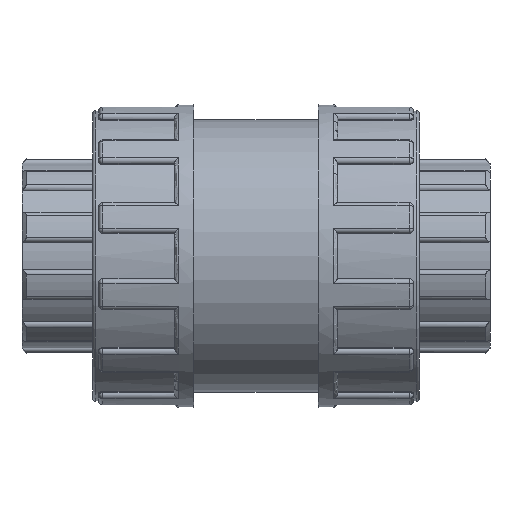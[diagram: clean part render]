
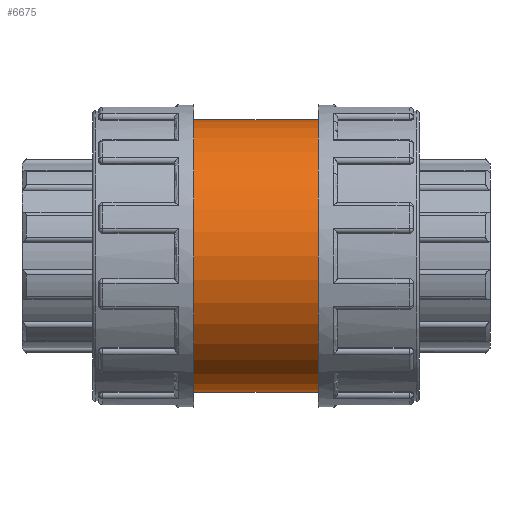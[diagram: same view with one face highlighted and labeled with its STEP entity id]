
A CAD part, front view. The second image highlights one B-rep face of the part: STEP entity #6675.
In plain terms, the highlighted cylindrical face has radius 29.7 mm (diameter 59.4 mm), a full revolution.
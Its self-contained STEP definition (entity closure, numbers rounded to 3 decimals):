
#185=FACE_BOUND('',#1099,.T.);
#186=FACE_BOUND('',#1100,.T.);
#670=FACE_OUTER_BOUND('',#1098,.T.);
#1098=EDGE_LOOP('',(#6073));
#1099=EDGE_LOOP('',(#6074));
#1100=EDGE_LOOP('',(#6075));
#1149=B_SPLINE_CURVE_WITH_KNOTS('',3,(#10735,#10736,#10737,#10738,#10739,
#10740,#10741,#10742,#10743,#10744,#10745,#10746,#10747,#10748,#10749,#10750,
#10751,#10752,#10753,#10754,#10755,#10756,#10757,#10758,#10759,#10760,#10761,
#10762,#10763,#10764,#10765,#10766,#10767,#10768),.UNSPECIFIED.,.T.,.F.,
(4,2,2,2,2,2,2,2,2,2,2,2,2,2,2,2,4),(0.,0.376,0.752,
1.128,1.504,1.88,2.256,2.632,
3.008,3.385,3.761,4.137,4.513,
4.889,5.265,5.641,6.017),
 .UNSPECIFIED.);
#2472=CIRCLE('',#7578,29.7);
#2473=CIRCLE('',#7580,29.7);
#2638=VERTEX_POINT('',#10734);
#3083=VERTEX_POINT('',#13353);
#3084=VERTEX_POINT('',#13356);
#3349=EDGE_CURVE('',#2638,#2638,#1149,.T.);
#4082=EDGE_CURVE('',#3083,#3083,#2472,.T.);
#4083=EDGE_CURVE('',#3084,#3084,#2473,.T.);
#6073=ORIENTED_EDGE('',*,*,#4082,.T.);
#6074=ORIENTED_EDGE('',*,*,#3349,.T.);
#6075=ORIENTED_EDGE('',*,*,#4083,.F.);
#6267=CYLINDRICAL_SURFACE('',#7579,29.7);
#6675=ADVANCED_FACE('',(#670,#185,#186),#6267,.T.);
#7578=AXIS2_PLACEMENT_3D('',#13354,#9749,#9750);
#7579=AXIS2_PLACEMENT_3D('',#13355,#9751,#9752);
#7580=AXIS2_PLACEMENT_3D('',#13357,#9753,#9754);
#9749=DIRECTION('center_axis',(1.,0.,0.));
#9750=DIRECTION('ref_axis',(0.,0.,-1.));
#9751=DIRECTION('center_axis',(1.,0.,0.));
#9752=DIRECTION('ref_axis',(0.,1.,0.));
#9753=DIRECTION('center_axis',(1.,0.,0.));
#9754=DIRECTION('ref_axis',(0.,0.,-1.));
#10734=CARTESIAN_POINT('',(0.,28.001,-9.9));
#10735=CARTESIAN_POINT('Ctrl Pts',(0.,28.001,-9.9));
#10736=CARTESIAN_POINT('Ctrl Pts',(1.254,28.001,-9.9));
#10737=CARTESIAN_POINT('Ctrl Pts',(2.584,28.094,-9.647));
#10738=CARTESIAN_POINT('Ctrl Pts',(5.02,28.422,-8.634));
#10739=CARTESIAN_POINT('Ctrl Pts',(6.127,28.651,-7.874));
#10740=CARTESIAN_POINT('Ctrl Pts',(7.874,29.075,-6.127));
#10741=CARTESIAN_POINT('Ctrl Pts',(8.634,29.298,-5.02));
#10742=CARTESIAN_POINT('Ctrl Pts',(9.648,29.613,-2.584));
#10743=CARTESIAN_POINT('Ctrl Pts',(9.9,29.7,-1.253));
#10744=CARTESIAN_POINT('Ctrl Pts',(9.9,29.7,1.253));
#10745=CARTESIAN_POINT('Ctrl Pts',(9.648,29.613,2.584));
#10746=CARTESIAN_POINT('Ctrl Pts',(8.634,29.298,5.02));
#10747=CARTESIAN_POINT('Ctrl Pts',(7.874,29.075,6.127));
#10748=CARTESIAN_POINT('Ctrl Pts',(6.127,28.651,7.874));
#10749=CARTESIAN_POINT('Ctrl Pts',(5.02,28.422,8.634));
#10750=CARTESIAN_POINT('Ctrl Pts',(2.584,28.094,9.647));
#10751=CARTESIAN_POINT('Ctrl Pts',(1.254,28.001,9.9));
#10752=CARTESIAN_POINT('Ctrl Pts',(-1.254,28.001,9.9));
#10753=CARTESIAN_POINT('Ctrl Pts',(-2.584,28.094,9.647));
#10754=CARTESIAN_POINT('Ctrl Pts',(-5.02,28.422,8.634));
#10755=CARTESIAN_POINT('Ctrl Pts',(-6.127,28.651,7.874));
#10756=CARTESIAN_POINT('Ctrl Pts',(-7.874,29.075,6.127));
#10757=CARTESIAN_POINT('Ctrl Pts',(-8.634,29.298,5.02));
#10758=CARTESIAN_POINT('Ctrl Pts',(-9.648,29.613,2.584));
#10759=CARTESIAN_POINT('Ctrl Pts',(-9.9,29.7,1.253));
#10760=CARTESIAN_POINT('Ctrl Pts',(-9.9,29.7,-1.253));
#10761=CARTESIAN_POINT('Ctrl Pts',(-9.648,29.613,-2.584));
#10762=CARTESIAN_POINT('Ctrl Pts',(-8.634,29.298,-5.02));
#10763=CARTESIAN_POINT('Ctrl Pts',(-7.874,29.075,-6.127));
#10764=CARTESIAN_POINT('Ctrl Pts',(-6.127,28.651,-7.874));
#10765=CARTESIAN_POINT('Ctrl Pts',(-5.02,28.422,-8.634));
#10766=CARTESIAN_POINT('Ctrl Pts',(-2.584,28.094,-9.647));
#10767=CARTESIAN_POINT('Ctrl Pts',(-1.254,28.001,-9.9));
#10768=CARTESIAN_POINT('Ctrl Pts',(0.,28.001,
-9.9));
#13353=CARTESIAN_POINT('',(-13.6,29.7,0.));
#13354=CARTESIAN_POINT('Origin',(-13.6,0.,0.));
#13355=CARTESIAN_POINT('Origin',(0.,0.,0.));
#13356=CARTESIAN_POINT('',(13.6,29.7,0.));
#13357=CARTESIAN_POINT('Origin',(13.6,0.,0.));
